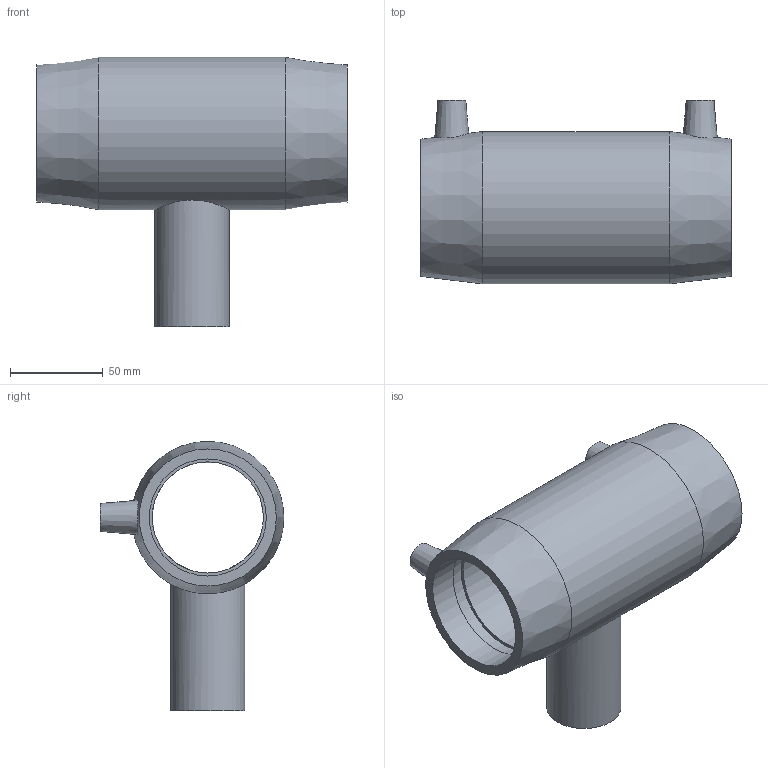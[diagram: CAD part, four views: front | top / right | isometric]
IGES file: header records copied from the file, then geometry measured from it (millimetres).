
Global section: file name: 491404063040.ipt; native system: Autodesk Inventor 2015; preprocessor: unknown; author: KIM; date: 20190909.112829; units: millimetre
Bounding box: 167 x 99 x 145 mm (x, y, z)
Volume: 367180.1 mm3; surface area: 95854.6 mm2
Topology: 1 solids, 1 shells, 31 faces, 72 edges, 52 vertices
Faces by surface type: plane 13, revolution 10, cylinder 4, cone 4
Full cylindrical faces by diameter (mm): 4 x2, 40 x1, 82 x1
